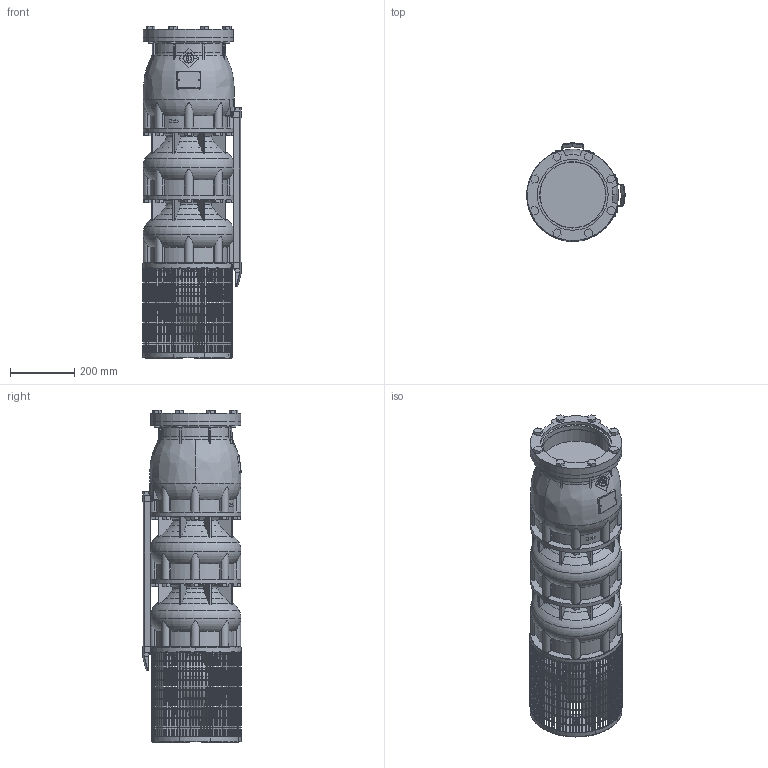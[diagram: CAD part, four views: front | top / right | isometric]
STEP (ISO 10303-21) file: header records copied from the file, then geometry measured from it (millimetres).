
FILE_DESCRIPTION(/* description */ ('-'),/* implementation_level */ '2;1');
FILE_NAME(/* name */ 'VSI344-2_WF_M8-50_SLE',/* time_stamp */ '2026-01-21T12:05:36+01:00',/* author */ ('Simonelli M.'),/* organization */ ('Franklin Electric Srl'),/* preprocessor_version */ 'ST-DEVELOPER v18.102',/* originating_system */ 'Solid Edge',/* authorisation */ 'Unknown');
FILE_SCHEMA (('TECHNICAL_DATA_PACKAGING','MODEL_BASED_INTEGRATED_MANUFACTURING_SCHEMA','AUTOMOTIVE_DESIGN {1 0 10303 214 3 1 1}'));
Products named in the file (12): VSI344-2_WF_M8-50_SLE; VSI344-454_testata; VSI344-454_supporto; VSI344-454_filtro_A; VSI344-454_filtro_B; VSI344-454_terminale_top_copricavo_basso; VSI344-454_terminale_bottom_copricavo_basso; LOW 334-2; VSI344_diffusore; M5X8_UNI7687; VSI184-254_giunto_10×8; VSI344-454_flangia_testata
Assembly tree (26 placements, depth 2):
  VSI344-2_WF_M8-50_SLE
    VSI344-454_testata
    VSI344-454_supporto
    VSI344-454_filtro_A
    VSI344-454_filtro_B
    VSI344-454_terminale_top_copricavo_basso  x2
    VSI344-454_terminale_bottom_copricavo_basso  x2
    LOW 334-2  x2
    VSI344_diffusore  x2
    M5X8_UNI7687  x12
    VSI184-254_giunto_10×8
    VSI344-454_flangia_testata
Bounding box: 306.94 x 306.94 x 1035 mm (x, y, z)
Volume: 38232051.6 mm3; surface area: 2477046.8 mm2
Topology: 91 solids, 91 shells, 4217 faces, 11867 edges, 7881 vertices
Faces by surface type: plane 3403, cylinder 529, torus 177, cone 81, bspline 15, sphere 12
Full cylindrical faces by diameter (mm): 5 x12, 16 x8, 35 x1, 65 x1, 69 x1, 150 x1, 207 x1, 220.5 x1, 285 x2
Entity records: 127624 total; most frequent: CARTESIAN_POINT 28634, ORIENTED_EDGE 20792, DIRECTION 19900, EDGE_CURVE 10396, VERTEX_POINT 6933, AXIS2_PLACEMENT_3D 6721, LINE 6458, VECTOR 6458
